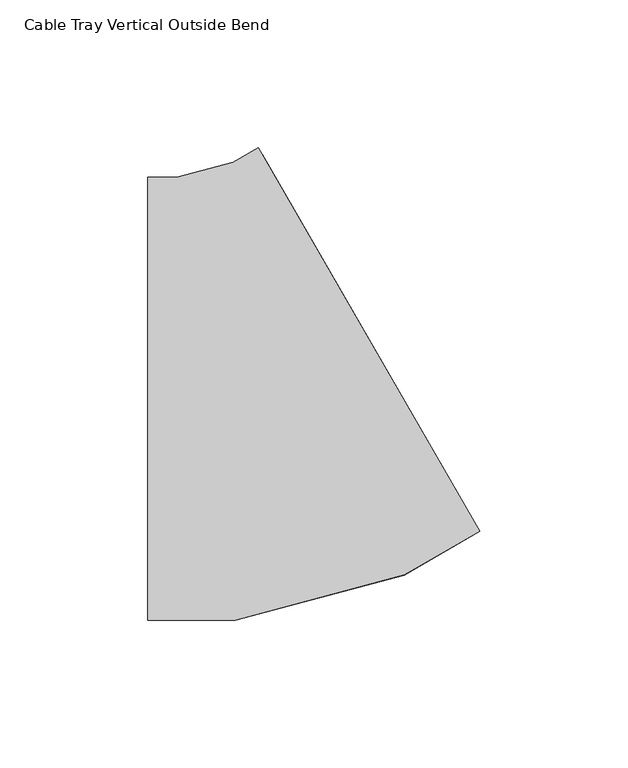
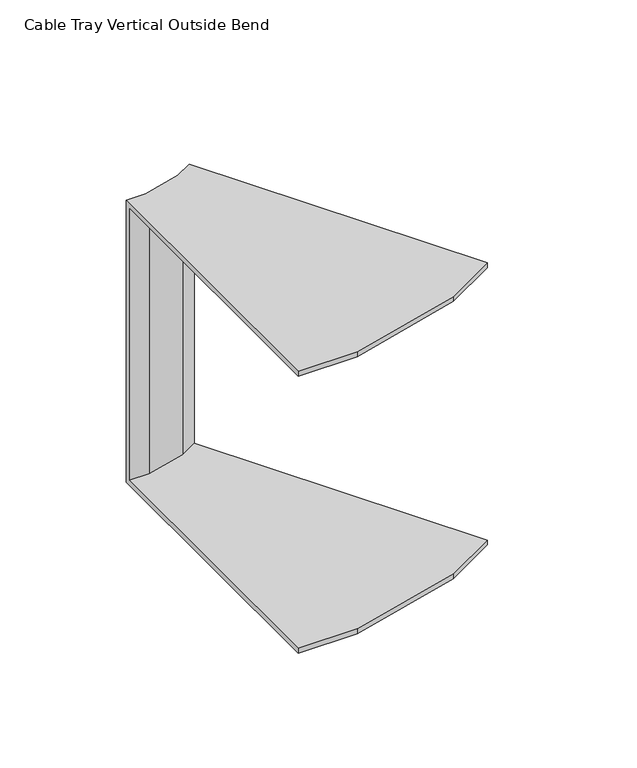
"""IFC4 building model written with IfcOpenShell, lengths in millimetres: cable carrier fitting geometry, Cable Tray Vertical Outside Bend : ELEC_ELV_TKG_N2402."""

from ifc_helpers import new_model, si_unit, origin, place, context, project, spatial, faceted_brep, source, transform, mapped, element, save


def cable_tray_vertical_outside_bend_f54c5729(model_context):
    return source(origin(), model_context, "Body", "Brep", [
        faceted_brep([(-40.1957407, -75.0, 75.0), (-40.1957407, 75.0, 75.0), (-40.1957407, 75.0, -75.0), (-40.1957407, -75.0, -75.0), (-40.1957407, -75.0, -72.46), (-40.1957407, 72.46, -72.46), (-40.1957407, 72.46, 72.46), (-40.1957407, -75.0, 72.46), (72.3124083, -44.8510108, 75.0), (72.3124083, -44.8510108, 72.46), (-1.4229323, 82.8500117, 72.46), (-1.4229323, 82.8500117, -72.46), (72.3124083, -44.8510108, -72.46), (72.3124083, -44.8510108, -75.0), (-2.6930243, 85.0496631, -75.0), (-2.6930243, 85.0496631, 75.0), (-10.5715355, -75.0, 75.0), (46.6577136, -59.6641863, 75.0), (-11.2445893, 80.1119379, 75.0), (-30.3210056, 75.0, 75.0), (-30.3210056, 75.0, -75.0), (-11.2445893, 80.1119379, -75.0), (46.6577136, -59.6641863, -75.0), (-10.5715355, -75.0, -75.0), (-10.5715355, -75.0, -72.46), (46.6577136, -59.6641863, -72.46), (-10.2641103, 77.7450622, -72.46), (-29.9865812, 72.46, -72.46), (-29.9865812, 72.46, 72.46), (-10.2641103, 77.7450622, 72.46), (46.6577136, -59.6641863, 72.46), (-10.5715355, -75.0, 72.46)], [[[0, 1, 2, 3, 4, 5, 6, 7]], [[8, 9, 10, 11, 12, 13, 14, 15]], [[1, 0, 16, 17, 8, 15, 18, 19]], [[2, 1, 19, 20]], [[3, 2, 20, 21, 14, 13, 22, 23]], [[4, 3, 23, 24]], [[5, 4, 24, 25, 12, 11, 26, 27]], [[6, 5, 27, 28]], [[7, 6, 28, 29, 10, 9, 30, 31]], [[0, 7, 31, 16]], [[20, 19, 18, 21]], [[24, 23, 22, 25]], [[28, 27, 26, 29]], [[16, 31, 30, 17]], [[21, 18, 15, 14]], [[25, 22, 13, 12]], [[29, 26, 11, 10]], [[17, 30, 9, 8]]]),
    ])


if __name__ == "__main__":
    model = new_model("IFC4")
    model_context = context("Model", 3, world=origin())
    ifc_project = project(units=[si_unit("LENGTHUNIT", "METRE", prefix="MILLI")], contexts=[model_context])
    site = spatial("IfcSite", under=ifc_project)
    building = spatial("IfcBuilding", under=site)
    placement = place(None, origin())
    cable_tray_vertical_outside_bend_shape = cable_tray_vertical_outside_bend_f54c5729(model_context)
    element("IfcCableCarrierFitting", 1, ObjectType="Cable Tray Vertical Outside Bend : ELEC_ELV_TKG_N2402", at=placement, inside=building, context=model_context, shape_type="MappedRepresentation", body=[
        mapped(cable_tray_vertical_outside_bend_shape, transform((0.0, 0.0, 0.0), x_axis=(1.0, 0.0, 0.0), y_axis=(0.0, 1.0, 0.0), z_axis=(0.0, 0.0, 1.0))),
    ])
    save(model, "model.ifc")
